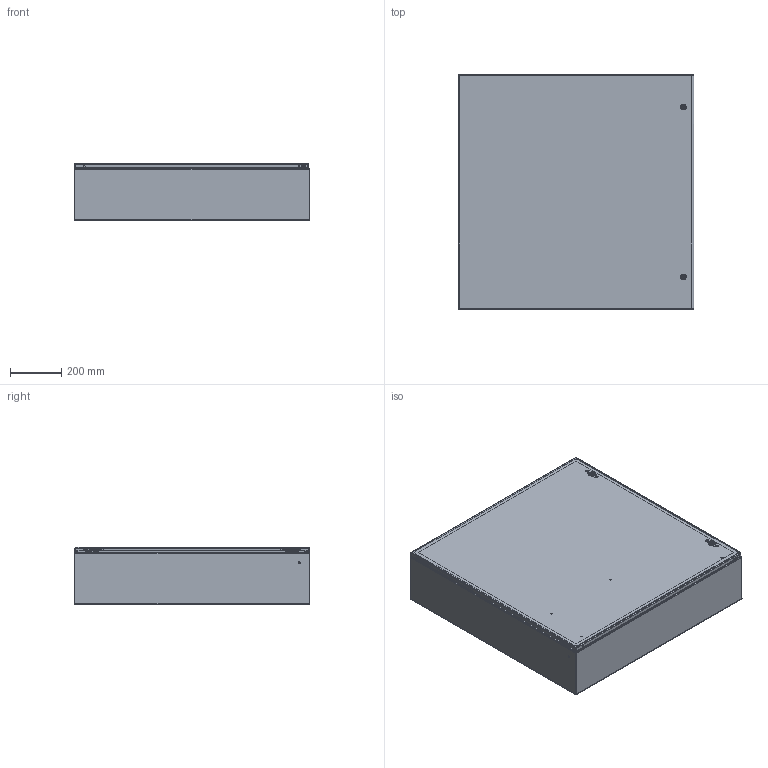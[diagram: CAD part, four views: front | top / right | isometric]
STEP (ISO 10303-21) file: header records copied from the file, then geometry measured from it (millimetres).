
FILE_DESCRIPTION (( 'STEP AP203' ), '1' );
FILE_NAME ('csd36368.STEP', '2012-06-11T19:55:27', ( 'User' ), ( 'Pentair Inc' ), 'SwSTEP 2.0', 'SolidWorks 2010', '' );
FILE_SCHEMA (( 'CONFIG_CONTROL_DESIGN' ));
Length unit declared in the file: inch
Products named in the file (30): 87543027; 89076399; 89076193; 89056623; 87929507; 87929767; 87929769_Installed on Pin; csd36368; 87951358; 87755780_default; 23271001_After Weld; 87937947_assy; 87937987_weldment; 87936146; 99401225; 87931362_87931362; 51123001_Post weld; 64101001; 64201001; 87541994_Installed Height; 87541995; 64202001; 64210001; 64203001; 87927840_87927840; 87932903; 64138001; 87938011; 87555298; 87562939_87562939
Assembly tree (50 placements, depth 4):
  csd36368
    87929507  x2
      87929767
      87929769_Installed on Pin
    87951358
      23271001_After Weld  x8
      87755780_default
      99401225
    87543027  x2
    89076399  x2
      89056623
      89076193
    87937947_assy
      87938011
      87555298
      64138001  x2
      87932903  x4
      64101001  x2
        87541995
        64203001
        64210001
        87541994_Installed Height
        64202001
        64201001
        87927840_87927840
      87937987_weldment
        87931362_87931362  x6
        51123001_Post weld
        99401225
        87936146
      87562939_87562939
Bounding box: 914.4 x 914.7 x 223.9 mm (x, y, z)
Volume: 4976260.2 mm3; surface area: 5318594.3 mm2
Topology: 54 solids, 54 shells, 2487 faces, 6083 edges, 3666 vertices
Faces by surface type: plane 894, cylinder 752, bspline 512, cone 160, torus 160, sphere 9
Entity records: 49046 total; most frequent: CARTESIAN_POINT 16680, ORIENTED_EDGE 6226, DIRECTION 5563, EDGE_CURVE 3113, AXIS2_PLACEMENT_3D 2009, VERTEX_POINT 1910, VECTOR 1545, LINE 1545
